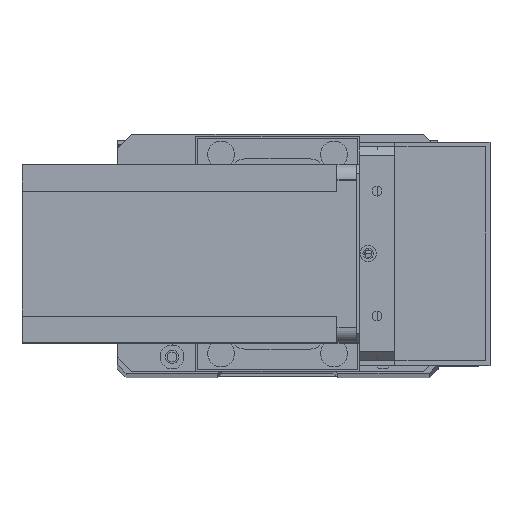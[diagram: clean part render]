
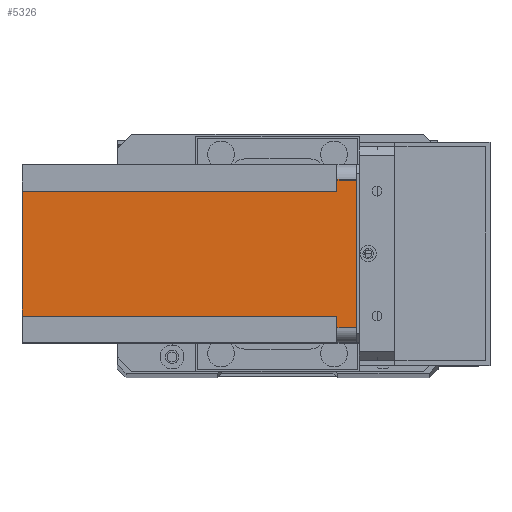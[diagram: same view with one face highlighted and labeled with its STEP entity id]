
A CAD part, top view. The second image highlights one B-rep face of the part: STEP entity #5326.
In plain terms, the highlighted planar face has unit normal (0, 0, 1) as drawn and (1, 0, 0) by its records, which use the part's own axes.
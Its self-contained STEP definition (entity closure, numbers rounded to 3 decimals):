
#562 = ORIENTED_EDGE ( 'NONE', *, *, #23421, .T. ) ;
#972 = EDGE_CURVE ( 'NONE', #8043, #29565, #27703, .T. ) ;
#1175 = CARTESIAN_POINT ( 'NONE',  ( 60., 51., -112.5 ) ) ;
#1496 = VERTEX_POINT ( 'NONE', #13250 ) ;
#1585 = CARTESIAN_POINT ( 'NONE',  ( 60., 51., -112.5 ) ) ;
#1877 = ORIENTED_EDGE ( 'NONE', *, *, #28812, .T. ) ;
#2648 = CARTESIAN_POINT ( 'NONE',  ( 60., 0., 0. ) ) ;
#4047 = ORIENTED_EDGE ( 'NONE', *, *, #27970, .F. ) ;
#4057 = VECTOR ( 'NONE', #4677, 1000. ) ;
#4461 = VECTOR ( 'NONE', #22779, 1000. ) ;
#4677 = DIRECTION ( 'NONE',  ( 0., 1., 0. ) ) ;
#4803 = FACE_OUTER_BOUND ( 'NONE', #13229, .T. ) ;
#4921 = VECTOR ( 'NONE', #13209, 1000. ) ;
#4973 = DIRECTION ( 'NONE',  ( 0., 1., 0. ) ) ;
#5326 = ADVANCED_FACE ( 'NONE', ( #4803 ), #9826, .T. ) ;
#5426 = VERTEX_POINT ( 'NONE', #26332 ) ;
#5960 = LINE ( 'NONE', #23905, #11407 ) ;
#7348 = CARTESIAN_POINT ( 'NONE',  ( 60., 9., -6.5 ) ) ;
#7838 = VECTOR ( 'NONE', #28098, 1000. ) ;
#8043 = VERTEX_POINT ( 'NONE', #19874 ) ;
#8741 = LINE ( 'NONE', #16220, #4057 ) ;
#8864 = AXIS2_PLACEMENT_3D ( 'NONE', #16703, #12187, #28334 ) ;
#9292 = LINE ( 'NONE', #25777, #7838 ) ;
#9826 = PLANE ( 'NONE',  #8864 ) ;
#9845 = ORIENTED_EDGE ( 'NONE', *, *, #29157, .F. ) ;
#10641 = LINE ( 'NONE', #18089, #4461 ) ;
#10912 = VECTOR ( 'NONE', #14771, 1000. ) ;
#11033 = VECTOR ( 'NONE', #28048, 1000. ) ;
#11407 = VECTOR ( 'NONE', #17004, 1000. ) ;
#11520 = CARTESIAN_POINT ( 'NONE',  ( 60., 55., -6.5 ) ) ;
#12027 = VERTEX_POINT ( 'NONE', #29913 ) ;
#12187 = DIRECTION ( 'NONE',  ( 1., 0., 0. ) ) ;
#12195 = VERTEX_POINT ( 'NONE', #7348 ) ;
#13209 = DIRECTION ( 'NONE',  ( 0., 0., -1. ) ) ;
#13229 = EDGE_LOOP ( 'NONE', ( #15359, #562, #26692, #25026, #4047, #9845, #1877, #14945 ) ) ;
#13250 = CARTESIAN_POINT ( 'NONE',  ( 60., 5., -6.5 ) ) ;
#14771 = DIRECTION ( 'NONE',  ( 0., 0., 1. ) ) ;
#14945 = ORIENTED_EDGE ( 'NONE', *, *, #19102, .F. ) ;
#15359 = ORIENTED_EDGE ( 'NONE', *, *, #22226, .F. ) ;
#15429 = VECTOR ( 'NONE', #4973, 1000. ) ;
#16220 = CARTESIAN_POINT ( 'NONE',  ( 60., 0., -112.5 ) ) ;
#16243 = CARTESIAN_POINT ( 'NONE',  ( 60., 55., 0. ) ) ;
#16703 = CARTESIAN_POINT ( 'NONE',  ( 60., 0., -112.5 ) ) ;
#17004 = DIRECTION ( 'NONE',  ( 0., 0., 1. ) ) ;
#18089 = CARTESIAN_POINT ( 'NONE',  ( 60., 0., -6.5 ) ) ;
#19102 = EDGE_CURVE ( 'NONE', #12027, #26676, #29510, .T. ) ;
#19874 = CARTESIAN_POINT ( 'NONE',  ( 60., 5., 0. ) ) ;
#22096 = VERTEX_POINT ( 'NONE', #11520 ) ;
#22226 = EDGE_CURVE ( 'NONE', #22096, #12027, #9292, .T. ) ;
#22779 = DIRECTION ( 'NONE',  ( 0., -1., 0. ) ) ;
#23421 = EDGE_CURVE ( 'NONE', #22096, #29565, #5960, .T. ) ;
#23724 = EDGE_CURVE ( 'NONE', #8043, #1496, #29453, .T. ) ;
#23905 = CARTESIAN_POINT ( 'NONE',  ( 60., 55., -112.5 ) ) ;
#25026 = ORIENTED_EDGE ( 'NONE', *, *, #23724, .T. ) ;
#25735 = CARTESIAN_POINT ( 'NONE',  ( 60., 5., -112.5 ) ) ;
#25777 = CARTESIAN_POINT ( 'NONE',  ( 60., 60., -6.5 ) ) ;
#26332 = CARTESIAN_POINT ( 'NONE',  ( 60., 9., -112.5 ) ) ;
#26676 = VERTEX_POINT ( 'NONE', #1175 ) ;
#26692 = ORIENTED_EDGE ( 'NONE', *, *, #972, .F. ) ;
#27703 = LINE ( 'NONE', #2648, #15429 ) ;
#27970 = EDGE_CURVE ( 'NONE', #12195, #1496, #10641, .T. ) ;
#28048 = DIRECTION ( 'NONE',  ( 0., 0., -1. ) ) ;
#28098 = DIRECTION ( 'NONE',  ( 0., -1., 0. ) ) ;
#28334 = DIRECTION ( 'NONE',  ( 0., 1., 0. ) ) ;
#28595 = CARTESIAN_POINT ( 'NONE',  ( 60., 9., -112.5 ) ) ;
#28812 = EDGE_CURVE ( 'NONE', #5426, #26676, #8741, .T. ) ;
#29157 = EDGE_CURVE ( 'NONE', #5426, #12195, #29346, .T. ) ;
#29346 = LINE ( 'NONE', #28595, #10912 ) ;
#29453 = LINE ( 'NONE', #25735, #11033 ) ;
#29510 = LINE ( 'NONE', #1585, #4921 ) ;
#29565 = VERTEX_POINT ( 'NONE', #16243 ) ;
#29913 = CARTESIAN_POINT ( 'NONE',  ( 60., 51., -6.5 ) ) ;
